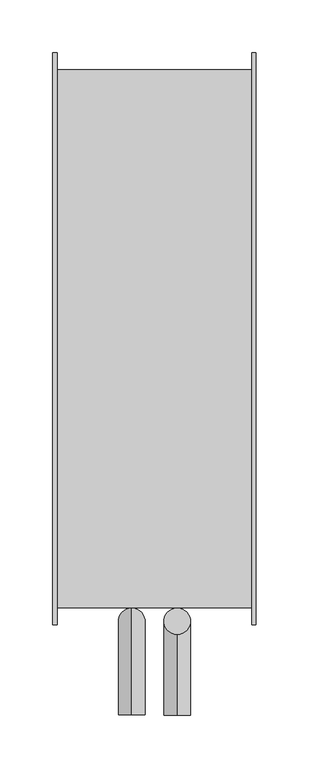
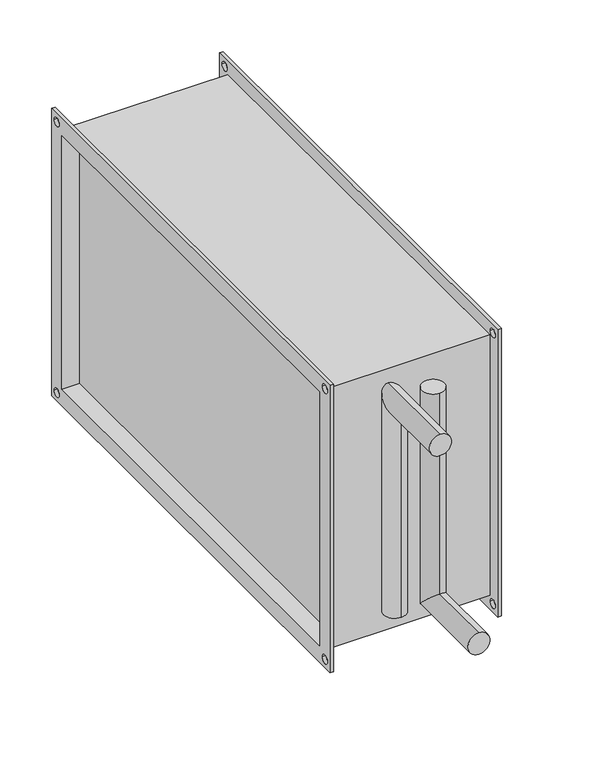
"""IFC4 building model written with IfcOpenShell, lengths in millimetres: proxy geometry, СВ_ВоздухонагревательВодяной_КанальныйПрямоугольный_200-1000_SPH-W : SPH-W-500x300/3."""

from ifc_helpers import new_model, si_unit, frame, origin, place, context, project, spatial, polyline, circle_curve, ellipse_curve, source, transform, mapped, element, save
from ifc_brep_helpers import plane_surface, cylinder_surface, revolved_surface, advanced_brep


def mechanical_equipment_d0150384(model_context):
    return source(origin(), model_context, "Body", "AdvancedBrep", [
        advanced_brep(
        [(21.5, -254.0, 125.0), (21.5, -279.0, 125.0), (21.5, -254.0, -137.5), (21.5, -279.0, -112.5), (21.5, -355.0, -137.5), (21.5, -355.0, -112.5)],
        [
            (0, 1, circle_curve(frame((21.5, -266.5, 125.0), z_axis=(0.0, 0.0, 1.0), x_axis=(0.0, -1.0, 0.0)), 12.5)),
            (1, 0, circle_curve(frame((21.5, -266.5, 125.0), z_axis=(0.0, 0.0, 1.0), x_axis=(0.0, -1.0, 0.0)), 12.5)),
            (0, 2),
            (2, 3, ellipse_curve(frame((21.5, -266.5, -125.0), z_axis=(0.0, 0.7071067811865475, 0.7071067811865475), x_axis=(0.0, -0.7071067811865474, 0.7071067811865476)), 17.6776695, 12.5)),
            (3, 1),
            (3, 2, ellipse_curve(frame((21.5, -266.5, -125.0), z_axis=(0.0, 0.7071067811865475, 0.7071067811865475), x_axis=(0.0, -0.7071067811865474, 0.7071067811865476)), 17.6776695, 12.5)),
            (4, 5, circle_curve(frame((21.5, -355.0, -125.0), z_axis=(0.0, -1.0, 0.0), x_axis=(0.0, 0.0, 1.0)), 12.5)),
            (5, 4, circle_curve(frame((21.5, -355.0, -125.0), z_axis=(0.0, -1.0, 0.0), x_axis=(0.0, 0.0, 1.0)), 12.5)),
            (2, 4),
            (5, 3),
        ],
        [
            plane_surface(frame((21.5, -266.5, 125.0), z_axis=(0.0, 0.0, 1.0), x_axis=(-1.0, 0.0, 0.0))),
            cylinder_surface(frame((21.5, -266.5, 125.0), z_axis=(0.0, 0.0, 1.0), x_axis=(0.0, -1.0, 0.0)), 12.5),
            plane_surface(frame((21.5, -355.0, -125.0), z_axis=(0.0, -1.0, 0.0), x_axis=(-1.0, 0.0, 0.0))),
            cylinder_surface(frame((21.5, -266.5, -125.0), z_axis=(0.0, 1.0, 0.0), x_axis=(0.0, 0.0, 1.0)), 12.5),
        ],
        [
            (0, [[1, 2]]),
            (1, [[-1, 3, 4, 5]]),
            (1, [[-2, -5, 6, -3]]),
            (2, [[7, 8]]),
            (3, [[-4, 9, -8, 10]]),
            (3, [[-6, -10, -7, -9]]),
        ],
    ),
        advanced_brep(
        [(-21.5, -254.0, -125.0), (-21.5, -279.0, -125.0), (-21.5, -254.0, 137.5), (-21.5, -279.0, 112.5), (-21.5, -355.0, 137.5), (-21.5, -355.0, 112.5)],
        [
            (0, 1, circle_curve(frame((-21.5, -266.5, -125.0), z_axis=(0.0, 0.0, -1.0), x_axis=(0.0, -1.0, 0.0)), 12.5)),
            (1, 0, circle_curve(frame((-21.5, -266.5, -125.0), z_axis=(0.0, 0.0, -1.0), x_axis=(0.0, -1.0, 0.0)), 12.5)),
            (0, 2),
            (2, 3, ellipse_curve(frame((-21.5, -266.5, 125.0), z_axis=(0.0, 0.7071067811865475, -0.7071067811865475), x_axis=(0.0, -0.7071067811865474, -0.7071067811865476)), 17.6776695, 12.5)),
            (3, 1),
            (3, 2, ellipse_curve(frame((-21.5, -266.5, 125.0), z_axis=(0.0, 0.7071067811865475, -0.7071067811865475), x_axis=(0.0, -0.7071067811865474, -0.7071067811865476)), 17.6776695, 12.5)),
            (4, 5, circle_curve(frame((-21.5, -355.0, 125.0), z_axis=(0.0, -1.0, 0.0), x_axis=(0.0, 0.0, -1.0)), 12.5)),
            (5, 4, circle_curve(frame((-21.5, -355.0, 125.0), z_axis=(0.0, -1.0, 0.0), x_axis=(0.0, 0.0, -1.0)), 12.5)),
            (2, 4),
            (5, 3),
        ],
        [
            plane_surface(frame((-21.5, -266.5, -125.0), z_axis=(0.0, 0.0, -1.0), x_axis=(1.0, 0.0, 0.0))),
            cylinder_surface(frame((-21.5, -266.5, -125.0), z_axis=(0.0, 0.0, -1.0), x_axis=(0.0, -1.0, 0.0)), 12.5),
            plane_surface(frame((-21.5, -355.0, 125.0), z_axis=(0.0, -1.0, 0.0), x_axis=(1.0, 0.0, 0.0))),
            cylinder_surface(frame((-21.5, -266.5, 125.0), z_axis=(0.0, 1.0, 0.0), x_axis=(0.0, 0.0, -1.0)), 12.5),
        ],
        [
            (0, [[1, 2]]),
            (1, [[-1, 3, 4, 5]]),
            (1, [[-2, -5, 6, -3]]),
            (2, [[7, 8]]),
            (3, [[-4, 9, -8, 10]]),
            (3, [[-6, -10, -7, -9]]),
        ],
    ),
        advanced_brep(
        [(-92.0, -254.0, 154.0), (-92.0, -254.0, -154.0), (92.0, -254.0, -154.0), (92.0, -254.0, 154.0), (-92.0, 254.0, -154.0), (92.0, 254.0, -154.0), (-92.0, 254.0, 154.0), (92.0, 254.0, 154.0), (76.0, 250.0, -150.0), (76.0, 250.0, 150.0), (76.0, -250.0, 150.0), (76.0, -250.0, -150.0), (-76.0, -250.0, 150.0), (-76.0, 250.0, 150.0), (-76.0, 250.0, -150.0), (-76.0, -250.0, -150.0), (-96.0, -270.0, 170.0), (-96.0, 270.0, 170.0), (-96.0, 270.0, -170.0), (-96.0, -270.0, -170.0), (-96.0, -250.0, 150.0), (-96.0, -250.0, -150.0), (-96.0, 250.0, -150.0), (-96.0, 250.0, 150.0), (-96.0, 255.0, 160.0), (-96.0, 265.0, 160.0), (-96.0, -265.0, 160.0), (-96.0, -255.0, 160.0), (-96.0, -265.0, -160.0), (-96.0, -255.0, -160.0), (-96.0, 255.0, -160.0), (-96.0, 265.0, -160.0), (-92.0, -270.0, 170.0), (-92.0, -270.0, -170.0), (-92.0, 270.0, -170.0), (-92.0, 270.0, 170.0), (-92.0, 265.0, 160.0), (-92.0, 255.0, 160.0), (-92.0, -255.0, 160.0), (-92.0, -265.0, 160.0), (-92.0, -255.0, -160.0), (-92.0, -265.0, -160.0), (-92.0, 265.0, -160.0), (-92.0, 255.0, -160.0), (92.0, 270.0, 170.0), (92.0, 270.0, -170.0), (92.0, -270.0, -170.0), (92.0, -270.0, 170.0), (92.0, 255.0, 160.0), (92.0, 265.0, 160.0), (92.0, -265.0, 160.0), (92.0, -255.0, 160.0), (92.0, -265.0, -160.0), (92.0, -255.0, -160.0), (92.0, 255.0, -160.0), (92.0, 265.0, -160.0), (96.0, 270.0, 170.0), (96.0, -270.0, 170.0), (96.0, -270.0, -170.0), (96.0, 270.0, -170.0), (96.0, 250.0, 150.0), (96.0, 250.0, -150.0), (96.0, -250.0, -150.0), (96.0, -250.0, 150.0), (96.0, 265.0, 160.0), (96.0, 255.0, 160.0), (96.0, -255.0, 160.0), (96.0, -265.0, 160.0), (96.0, -255.0, -160.0), (96.0, -265.0, -160.0), (96.0, 265.0, -160.0), (96.0, 255.0, -160.0)],
        [
            (0, 1),
            (1, 2),
            (2, 3),
            (3, 0),
            (1, 4),
            (4, 5),
            (5, 2),
            (4, 6),
            (6, 7),
            (7, 5),
            (6, 0),
            (3, 7),
            (8, 9),
            (9, 10),
            (10, 11),
            (11, 8),
            (12, 13),
            (13, 14),
            (14, 15),
            (15, 12),
            (16, 17),
            (17, 18),
            (18, 19),
            (19, 16),
            (20, 21),
            (21, 22),
            (22, 23),
            (23, 20),
            (24, 25, circle_curve(frame((-96.0, 260.0, 160.0), z_axis=(1.0, 0.0, 0.0), x_axis=(0.0, -1.0, 0.0)), 5.0)),
            (25, 24, circle_curve(frame((-96.0, 260.0, 160.0), z_axis=(1.0, 0.0, 0.0), x_axis=(0.0, -1.0, 0.0)), 5.0)),
            (26, 27, circle_curve(frame((-96.0, -260.0, 160.0), z_axis=(1.0, 0.0, 0.0), x_axis=(0.0, -1.0, 0.0)), 5.0)),
            (27, 26, circle_curve(frame((-96.0, -260.0, 160.0), z_axis=(1.0, 0.0, 0.0), x_axis=(0.0, -1.0, 0.0)), 5.0)),
            (28, 29, circle_curve(frame((-96.0, -260.0, -160.0), z_axis=(1.0, 0.0, 0.0), x_axis=(0.0, -1.0, 0.0)), 5.0)),
            (29, 28, circle_curve(frame((-96.0, -260.0, -160.0), z_axis=(1.0, 0.0, 0.0), x_axis=(0.0, -1.0, 0.0)), 5.0)),
            (30, 31, circle_curve(frame((-96.0, 260.0, -160.0), z_axis=(1.0, 0.0, 0.0), x_axis=(0.0, -1.0, 0.0)), 5.0)),
            (31, 30, circle_curve(frame((-96.0, 260.0, -160.0), z_axis=(1.0, 0.0, 0.0), x_axis=(0.0, -1.0, 0.0)), 5.0)),
            (32, 33),
            (33, 34),
            (34, 35),
            (35, 32),
            (36, 37, circle_curve(frame((-92.0, 260.0, 160.0), z_axis=(-1.0, 0.0, 0.0), x_axis=(0.0, -1.0, 0.0)), 5.0)),
            (37, 36, circle_curve(frame((-92.0, 260.0, 160.0), z_axis=(-1.0, 0.0, 0.0), x_axis=(0.0, -1.0, 0.0)), 5.0)),
            (38, 39, circle_curve(frame((-92.0, -260.0, 160.0), z_axis=(-1.0, 0.0, 0.0), x_axis=(0.0, -1.0, 0.0)), 5.0)),
            (39, 38, circle_curve(frame((-92.0, -260.0, 160.0), z_axis=(-1.0, 0.0, 0.0), x_axis=(0.0, -1.0, 0.0)), 5.0)),
            (40, 41, circle_curve(frame((-92.0, -260.0, -160.0), z_axis=(-1.0, 0.0, 0.0), x_axis=(0.0, -1.0, 0.0)), 5.0)),
            (41, 40, circle_curve(frame((-92.0, -260.0, -160.0), z_axis=(-1.0, 0.0, 0.0), x_axis=(0.0, -1.0, 0.0)), 5.0)),
            (42, 43, circle_curve(frame((-92.0, 260.0, -160.0), z_axis=(-1.0, 0.0, 0.0), x_axis=(0.0, -1.0, 0.0)), 5.0)),
            (43, 42, circle_curve(frame((-92.0, 260.0, -160.0), z_axis=(-1.0, 0.0, 0.0), x_axis=(0.0, -1.0, 0.0)), 5.0)),
            (19, 33),
            (32, 16),
            (18, 34),
            (17, 35),
            (44, 45),
            (45, 46),
            (46, 47),
            (47, 44),
            (48, 49, circle_curve(frame((92.0, 260.0, 160.0), z_axis=(1.0, 0.0, 0.0), x_axis=(0.0, -1.0, 0.0)), 5.0)),
            (49, 48, circle_curve(frame((92.0, 260.0, 160.0), z_axis=(1.0, 0.0, 0.0), x_axis=(0.0, -1.0, 0.0)), 5.0)),
            (50, 51, circle_curve(frame((92.0, -260.0, 160.0), z_axis=(1.0, 0.0, 0.0), x_axis=(0.0, -1.0, 0.0)), 5.0)),
            (51, 50, circle_curve(frame((92.0, -260.0, 160.0), z_axis=(1.0, 0.0, 0.0), x_axis=(0.0, -1.0, 0.0)), 5.0)),
            (52, 53, circle_curve(frame((92.0, -260.0, -160.0), z_axis=(1.0, 0.0, 0.0), x_axis=(0.0, -1.0, 0.0)), 5.0)),
            (53, 52, circle_curve(frame((92.0, -260.0, -160.0), z_axis=(1.0, 0.0, 0.0), x_axis=(0.0, -1.0, 0.0)), 5.0)),
            (54, 55, circle_curve(frame((92.0, 260.0, -160.0), z_axis=(1.0, 0.0, 0.0), x_axis=(0.0, -1.0, 0.0)), 5.0)),
            (55, 54, circle_curve(frame((92.0, 260.0, -160.0), z_axis=(1.0, 0.0, 0.0), x_axis=(0.0, -1.0, 0.0)), 5.0)),
            (56, 57),
            (57, 58),
            (58, 59),
            (59, 56),
            (60, 61),
            (61, 62),
            (62, 63),
            (63, 60),
            (64, 65, circle_curve(frame((96.0, 260.0, 160.0), z_axis=(-1.0, 0.0, 0.0), x_axis=(0.0, -1.0, 0.0)), 5.0)),
            (65, 64, circle_curve(frame((96.0, 260.0, 160.0), z_axis=(-1.0, 0.0, 0.0), x_axis=(0.0, -1.0, 0.0)), 5.0)),
            (66, 67, circle_curve(frame((96.0, -260.0, 160.0), z_axis=(-1.0, 0.0, 0.0), x_axis=(0.0, -1.0, 0.0)), 5.0)),
            (67, 66, circle_curve(frame((96.0, -260.0, 160.0), z_axis=(-1.0, 0.0, 0.0), x_axis=(0.0, -1.0, 0.0)), 5.0)),
            (68, 69, circle_curve(frame((96.0, -260.0, -160.0), z_axis=(-1.0, 0.0, 0.0), x_axis=(0.0, -1.0, 0.0)), 5.0)),
            (69, 68, circle_curve(frame((96.0, -260.0, -160.0), z_axis=(-1.0, 0.0, 0.0), x_axis=(0.0, -1.0, 0.0)), 5.0)),
            (70, 71, circle_curve(frame((96.0, 260.0, -160.0), z_axis=(-1.0, 0.0, 0.0), x_axis=(0.0, -1.0, 0.0)), 5.0)),
            (71, 70, circle_curve(frame((96.0, 260.0, -160.0), z_axis=(-1.0, 0.0, 0.0), x_axis=(0.0, -1.0, 0.0)), 5.0)),
            (47, 57),
            (56, 44),
            (46, 58),
            (45, 59),
            (23, 13),
            (12, 20),
            (22, 14),
            (21, 15),
            (60, 9),
            (8, 61),
            (11, 62),
            (10, 63),
            (36, 25),
            (24, 37),
            (64, 49),
            (48, 65),
            (38, 27),
            (26, 39),
            (66, 51),
            (50, 67),
            (40, 29),
            (28, 41),
            (68, 53),
            (52, 69),
            (42, 31),
            (30, 43),
            (70, 55),
            (54, 71),
        ],
        [
            plane_surface(frame((-76.0, -254.0, 154.0), z_axis=(0.0, -1.0, 0.0), x_axis=(-1.0, 0.0, 0.0))),
            plane_surface(frame((-76.0, -254.0, -154.0), z_axis=(0.0, 0.0, -1.0), x_axis=(-1.0, 0.0, 0.0))),
            plane_surface(frame((-76.0, 254.0, -154.0), z_axis=(0.0, 1.0, 0.0), x_axis=(-1.0, 0.0, 0.0))),
            plane_surface(frame((-76.0, 254.0, 154.0), z_axis=(0.0, 0.0, 1.0), x_axis=(-1.0, 0.0, 0.0))),
            plane_surface(frame((76.0, -254.0, 154.0), z_axis=(1.0, 0.0, 0.0), x_axis=(0.0, 0.0, -1.0))),
            plane_surface(frame((-76.0, -254.0, 154.0), z_axis=(-1.0, 0.0, 0.0), x_axis=(0.0, 0.0, 1.0))),
            plane_surface(frame((-96.0, -270.0, 170.0), z_axis=(-1.0, 0.0, 0.0), x_axis=(0.0, 0.0, 1.0))),
            plane_surface(frame((-92.0, -270.0, 170.0), z_axis=(1.0, 0.0, 0.0), x_axis=(0.0, 0.0, -1.0))),
            plane_surface(frame((-92.0, -270.0, 170.0), z_axis=(0.0, -1.0, 0.0), x_axis=(-1.0, 0.0, 0.0))),
            plane_surface(frame((-92.0, -270.0, -170.0), z_axis=(0.0, 0.0, -1.0), x_axis=(-1.0, 0.0, 0.0))),
            plane_surface(frame((-92.0, 270.0, -170.0), z_axis=(0.0, 1.0, 0.0), x_axis=(-1.0, 0.0, 0.0))),
            plane_surface(frame((-92.0, 270.0, 170.0), z_axis=(0.0, 0.0, 1.0), x_axis=(-1.0, 0.0, 0.0))),
            plane_surface(frame((92.0, 250.0, -150.0), z_axis=(-1.0, 0.0, 0.0), x_axis=(0.0, 0.0, 1.0))),
            plane_surface(frame((96.0, 250.0, -150.0), z_axis=(1.0, 0.0, 0.0), x_axis=(0.0, 0.0, -1.0))),
            plane_surface(frame((96.0, 270.0, 170.0), z_axis=(0.0, 0.0, 1.0), x_axis=(-1.0, 0.0, 0.0))),
            plane_surface(frame((96.0, -270.0, 170.0), z_axis=(0.0, -1.0, 0.0), x_axis=(-1.0, 0.0, 0.0))),
            plane_surface(frame((96.0, -270.0, -170.0), z_axis=(0.0, 0.0, -1.0), x_axis=(-1.0, 0.0, 0.0))),
            plane_surface(frame((96.0, 270.0, -170.0), z_axis=(0.0, 1.0, 0.0), x_axis=(-1.0, 0.0, 0.0))),
            plane_surface(frame((-92.0, -250.0, 150.0), z_axis=(0.0, 0.0, -1.0), x_axis=(-1.0, 0.0, 0.0))),
            plane_surface(frame((-92.0, 250.0, 150.0), z_axis=(0.0, -1.0, 0.0), x_axis=(-1.0, 0.0, 0.0))),
            plane_surface(frame((-92.0, 250.0, -150.0), z_axis=(0.0, 0.0, 1.0), x_axis=(-1.0, 0.0, 0.0))),
            plane_surface(frame((-92.0, -250.0, -150.0), z_axis=(0.0, 1.0, 0.0), x_axis=(-1.0, 0.0, 0.0))),
            plane_surface(frame((96.0, 250.0, 150.0), z_axis=(0.0, -1.0, 0.0), x_axis=(-1.0, 0.0, 0.0))),
            plane_surface(frame((96.0, 250.0, -150.0), z_axis=(0.0, 0.0, 1.0), x_axis=(-1.0, 0.0, 0.0))),
            plane_surface(frame((96.0, -250.0, -150.0), z_axis=(0.0, 1.0, 0.0), x_axis=(-1.0, 0.0, 0.0))),
            plane_surface(frame((96.0, -250.0, 150.0), z_axis=(0.0, 0.0, -1.0), x_axis=(-1.0, 0.0, 0.0))),
            revolved_surface(polyline([(-96.0, 255.0, 160.0), (-92.0, 255.0, 160.0)]), (96.0, 260.0, 160.0), (-1.0, 0.0, 0.0)),
            revolved_surface(polyline([(92.0, 255.0, 160.0), (96.0, 255.0, 160.0)]), (96.0, 260.0, 160.0), (-1.0, 0.0, 0.0)),
            revolved_surface(polyline([(-96.0, -265.0, 160.0), (-92.0, -265.0, 160.0)]), (21.5, -260.0, 160.0), (-1.0, 0.0, 0.0)),
            revolved_surface(polyline([(92.0, -265.0, 160.0), (96.0, -265.0, 160.0)]), (21.5, -260.0, 160.0), (-1.0, 0.0, 0.0)),
            revolved_surface(polyline([(-96.0, -265.0, -160.0), (-92.0, -265.0, -160.0)]), (21.5, -260.0, -160.0), (-1.0, 0.0, 0.0)),
            revolved_surface(polyline([(92.0, -265.0, -160.0), (96.0, -265.0, -160.0)]), (21.5, -260.0, -160.0), (-1.0, 0.0, 0.0)),
            revolved_surface(polyline([(-96.0, 255.0, -160.0), (-92.0, 255.0, -160.0)]), (21.5, 260.0, -160.0), (-1.0, 0.0, 0.0)),
            revolved_surface(polyline([(92.0, 255.0, -160.0), (96.0, 255.0, -160.0)]), (21.5, 260.0, -160.0), (-1.0, 0.0, 0.0)),
        ],
        [
            (0, [[1, 2, 3, 4]]),
            (1, [[-2, 5, 6, 7]]),
            (2, [[-6, 8, 9, 10]]),
            (3, [[-9, 11, -4, 12]]),
            (4, [[13, 14, 15, 16]]),
            (5, [[17, 18, 19, 20]]),
            (6, [[21, 22, 23, 24], [25, 26, 27, 28], [29, 30], [31, 32], [33, 34], [35, 36]]),
            (7, [[37, 38, 39, 40], [-1, -11, -8, -5], [41, 42], [43, 44], [45, 46], [47, 48]]),
            (8, [[-24, 49, -37, 50]]),
            (9, [[-23, 51, -38, -49]]),
            (10, [[-22, 52, -39, -51]]),
            (11, [[-21, -50, -40, -52]]),
            (12, [[53, 54, 55, 56], [-3, -7, -10, -12], [57, 58], [59, 60], [61, 62], [63, 64]]),
            (13, [[65, 66, 67, 68], [69, 70, 71, 72], [73, 74], [75, 76], [77, 78], [79, 80]]),
            (14, [[-56, 81, -65, 82]]),
            (15, [[-55, 83, -66, -81]]),
            (16, [[-54, 84, -67, -83]]),
            (17, [[-53, -82, -68, -84]]),
            (18, [[-28, 85, -17, 86]]),
            (19, [[-27, 87, -18, -85]]),
            (20, [[-26, 88, -19, -87]]),
            (21, [[-25, -86, -20, -88]]),
            (22, [[-69, 89, -13, 90]]),
            (23, [[-70, -90, -16, 91]]),
            (24, [[-71, -91, -15, 92]]),
            (25, [[-89, -72, -92, -14]]),
            (26, [[93, -29, 94, -41]]),
            (27, [[95, -57, 96, -73]]),
            (26, [[-93, -42, -94, -30]]),
            (27, [[-95, -74, -96, -58]]),
            (28, [[97, -31, 98, -43]]),
            (29, [[99, -59, 100, -75]]),
            (28, [[-97, -44, -98, -32]]),
            (29, [[-99, -76, -100, -60]]),
            (30, [[101, -33, 102, -45]]),
            (31, [[103, -61, 104, -77]]),
            (30, [[-101, -46, -102, -34]]),
            (31, [[-103, -78, -104, -62]]),
            (32, [[105, -35, 106, -47]]),
            (33, [[107, -63, 108, -79]]),
            (32, [[-105, -48, -106, -36]]),
            (33, [[-107, -80, -108, -64]]),
        ],
    ),
    ])


if __name__ == "__main__":
    model = new_model("IFC4")
    model_context = context("Model", 3, world=origin())
    ifc_project = project(units=[si_unit("LENGTHUNIT", "METRE", prefix="MILLI")], contexts=[model_context])
    site = spatial("IfcSite", under=ifc_project)
    building = spatial("IfcBuilding", under=site)
    placement = place(None, origin())
    mechanical_equipment_shape = mechanical_equipment_d0150384(model_context)
    element("IfcBuildingElementProxy", 1, Name="СВ_ВоздухонагревательВодяной_КанальныйПрямоугольный_200-1000_SPH-W : SPH-W-500x300/3", ObjectType="СВ_ВоздухонагревательВодяной_КанальныйПрямоугольный_200-1000_SPH-W : SPH-W-500x300/3", at=placement, inside=building, context=model_context, shape_type="MappedRepresentation", body=[
        mapped(mechanical_equipment_shape, transform((0.0, 0.0, 0.0), x_axis=(1.0, 0.0, 0.0), y_axis=(0.0, 1.0, 0.0), z_axis=(0.0, 0.0, 1.0))),
    ])
    save(model, "model.ifc")
